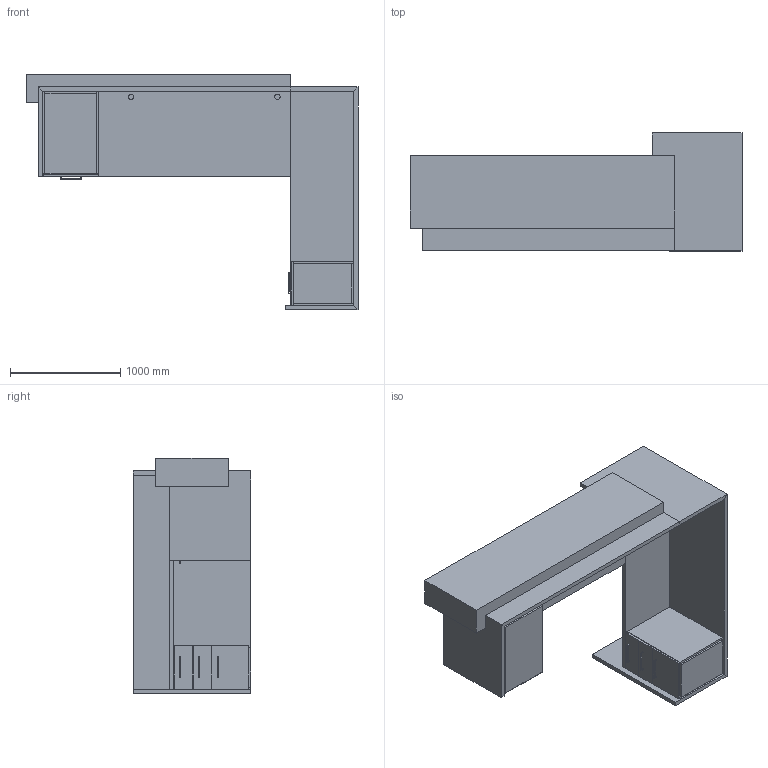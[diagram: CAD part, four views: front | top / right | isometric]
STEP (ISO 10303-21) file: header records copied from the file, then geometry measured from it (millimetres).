
FILE_DESCRIPTION(/* description */ ('','CAx-IF Rec.Pracs.---Representation and Presentation of Product Manufacturing Information (PMI)---4.0---2014-10-13'),/* implementation_level */ '2;1');
FILE_NAME(/* name */ 'RECEPTION_SALUTE 7.stp',/* time_stamp */ '2024-12-07T19:02:21-05:00',/* author */ ('mbowman'),/* organization */ (''),/* preprocessor_version */ 'ST-DEVELOPER v19.2',/* originating_system */ 'Autodesk Inventor 2023',/* authorisation */ '');
FILE_SCHEMA (('AP242_MANAGED_MODEL_BASED_3D_ENGINEERING_MIM_LF { 1 0 10303 442 1 1 4 }'));
Length unit declared in the file: inch
Products named in the file (3): SALUTE^ADMIN 7_SHORT TRANS L-SHAPE-SOLID ASSEMBLY; SALUTE^ADMIN 7_SHORT TRANS L-SHAPE-PARTS SOLID; HAFELE 102.12.004-7_5 INCH
Assembly tree (5 placements, depth 2):
  SALUTE^ADMIN 7_SHORT TRANS L-SHAPE-SOLID ASSEMBLY
    SALUTE^ADMIN 7_SHORT TRANS L-SHAPE-PARTS SOLID
    HAFELE 102.12.004-7_5 INCH  x4
Bounding box: 3009.9 x 1066.8 x 2133.6 mm (x, y, z)
Volume: 536278622.4 mm3; surface area: 35589030 mm2
Topology: 26 solids, 26 shells, 200 faces, 442 edges, 292 vertices
Faces by surface type: plane 198, cylinder 2
Full cylindrical faces by diameter (mm): 48.26 x2
Entity records: 5827 total; most frequent: CARTESIAN_POINT 1266, DIRECTION 752, ORIENTED_EDGE 740, EDGE_CURVE 370, LINE 366, VECTOR 366, STYLED_ITEM 314, VERTEX_POINT 244
